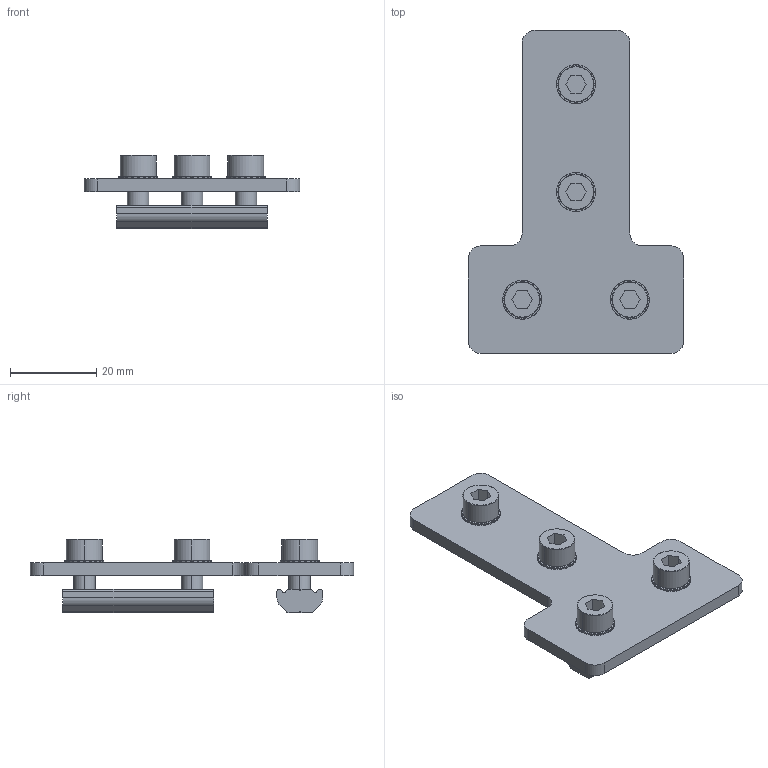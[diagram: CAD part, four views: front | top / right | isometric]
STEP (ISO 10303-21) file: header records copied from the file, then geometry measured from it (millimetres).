
FILE_DESCRIPTION (( 'STEP AP214' ), '1' );
FILE_NAME ('SFP-T2550.STEP', '2019-10-30T08:34:37', ( '微软用户' ), ( '微软中国' ), 'SwSTEP 2.0', 'SolidWorks 2016', '' );
FILE_SCHEMA (( 'AUTOMOTIVE_DESIGN' ));
Length unit declared in the file: millimetre
Products named in the file (5): PTN-M5P25; PTS-M5; PTC-M5L12; SFP-T2550
Assembly tree (11 placements, depth 2):
  SFP-T2550
    SFP-T2550
    PTC-M5L12  x4
    PTS-M5  x4
    PTN-M5P25  x2
Bounding box: 50 x 75 x 17 mm (x, y, z)
Volume: 12093.9 mm3; surface area: 10582.1 mm2
Topology: 11 solids, 11 shells, 862 faces, 2520 edges, 1672 vertices
Faces by surface type: plane 746, cylinder 92, cone 24
Entity records: 9082 total; most frequent: CARTESIAN_POINT 1734, DIRECTION 1528, ORIENTED_EDGE 1524, EDGE_CURVE 762, AXIS2_PLACEMENT_3D 524, VERTEX_POINT 506, VECTOR 480, LINE 480
